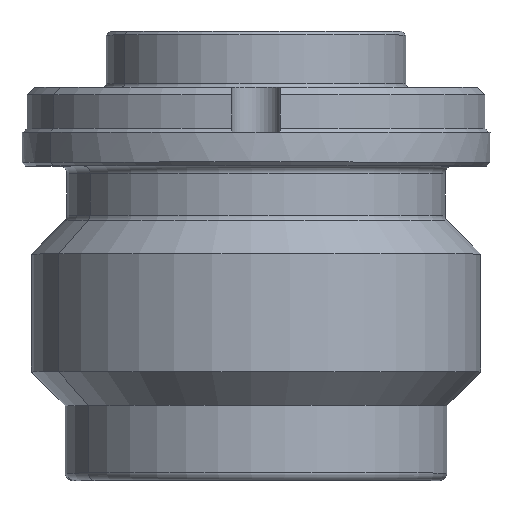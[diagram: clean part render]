
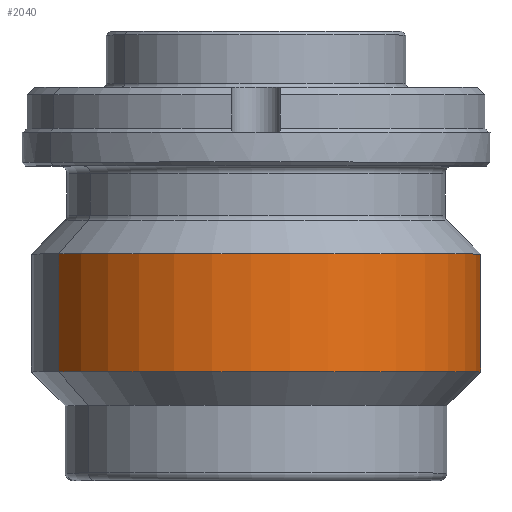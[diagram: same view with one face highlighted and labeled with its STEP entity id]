
A CAD part, top view. The second image highlights one B-rep face of the part: STEP entity #2040.
In plain terms, the highlighted cylindrical face has radius 6 mm (diameter 12 mm), a partial arc.
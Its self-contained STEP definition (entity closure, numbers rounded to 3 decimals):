
#1971=CARTESIAN_POINT('Vertex',(-5.265,6.05,2.877)) ;
#1974=CARTESIAN_POINT('Axis2P3D Location',(0.,6.05,0.)) ;
#1978=CARTESIAN_POINT('Vertex',(5.265,6.05,-2.877)) ;
#2010=CARTESIAN_POINT('Axis2P3D Location',(0.,6.,0.)) ;
#2015=CARTESIAN_POINT('Line Origine',(-5.265,4.5,2.877)) ;
#2019=CARTESIAN_POINT('Vertex',(-5.265,2.9,2.877)) ;
#2022=CARTESIAN_POINT('Axis2P3D Location',(0.,2.9,0.)) ;
#2026=CARTESIAN_POINT('Vertex',(5.265,2.9,-2.877)) ;
#2029=CARTESIAN_POINT('Line Origine',(5.265,4.5,-2.877)) ;
#1975=DIRECTION('Axis2P3D Direction',(0.,1.,0.)) ;
#2011=DIRECTION('Axis2P3D Direction',(0.,1.,0.)) ;
#2012=DIRECTION('Axis2P3D XDirection',(0.878,0.,-0.479)) ;
#2016=DIRECTION('Vector Direction',(0.,1.,0.)) ;
#2023=DIRECTION('Axis2P3D Direction',(0.,1.,0.)) ;
#2030=DIRECTION('Vector Direction',(0.,1.,0.)) ;
#1976=AXIS2_PLACEMENT_3D('Circle Axis2P3D',#1974,#1975,$) ;
#2013=AXIS2_PLACEMENT_3D('Cylinder Axis2P3D',#2010,#2011,#2012) ;
#2024=AXIS2_PLACEMENT_3D('Circle Axis2P3D',#2022,#2023,$) ;
#2035=ORIENTED_EDGE('',*,*,#2021,.F.) ;
#2036=ORIENTED_EDGE('',*,*,#2028,.T.) ;
#2037=ORIENTED_EDGE('',*,*,#2033,.T.) ;
#2038=ORIENTED_EDGE('',*,*,#1980,.F.) ;
#2017=VECTOR('Line Direction',#2016,1.) ;
#2031=VECTOR('Line Direction',#2030,1.) ;
#2040=ADVANCED_FACE('BODY',(#2039),#2014,.T.) ;
#1977=CIRCLE('generated circle',#1976,6.) ;
#2025=CIRCLE('generated circle',#2024,6.) ;
#2014=CYLINDRICAL_SURFACE('generated cylinder',#2013,6.) ;
#1980=EDGE_CURVE('',#1972,#1979,#1977,.T.) ;
#2021=EDGE_CURVE('',#2020,#1972,#2018,.T.) ;
#2028=EDGE_CURVE('',#2020,#2027,#2025,.T.) ;
#2033=EDGE_CURVE('',#2027,#1979,#2032,.T.) ;
#2034=EDGE_LOOP('',(#2035,#2036,#2037,#2038)) ;
#2039=FACE_OUTER_BOUND('',#2034,.T.) ;
#2018=LINE('Line',#2015,#2017) ;
#2032=LINE('Line',#2029,#2031) ;
#1972=VERTEX_POINT('',#1971) ;
#1979=VERTEX_POINT('',#1978) ;
#2020=VERTEX_POINT('',#2019) ;
#2027=VERTEX_POINT('',#2026) ;
